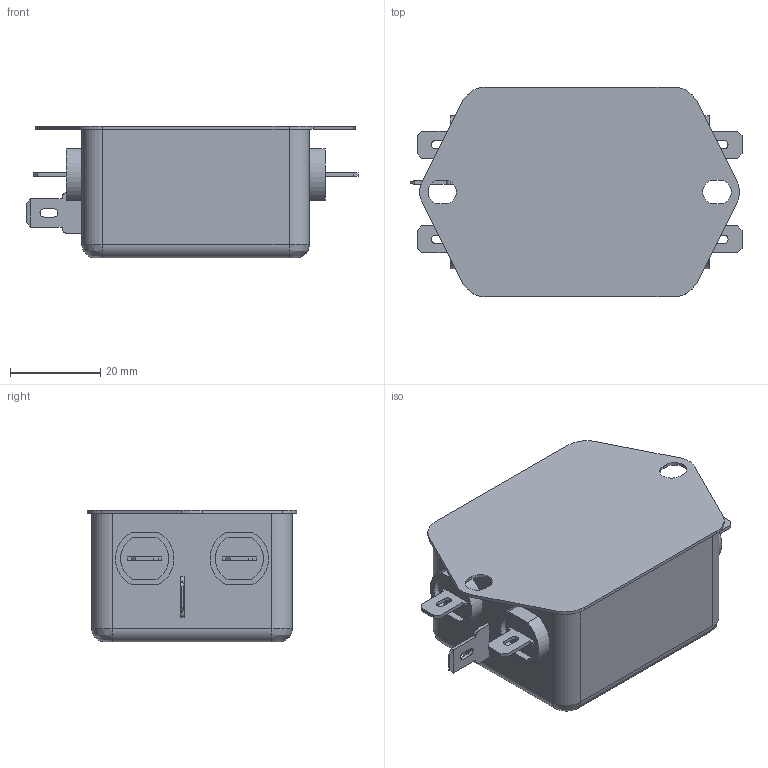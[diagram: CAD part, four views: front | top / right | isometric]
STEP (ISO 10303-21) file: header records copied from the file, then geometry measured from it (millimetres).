
FILE_DESCRIPTION((''),'2;1');
FILE_NAME('K:\Development\Product_FN\FN2020\FN2020-16-06 (291-690)\1_technical_file\3_technical_drawing\FN2020-16-06.stp','2012-08-30T15:16:21',('ice.li'),(''),'Autodesk Inventor 2010','Autodesk Inventor 2010','');
FILE_SCHEMA(('AUTOMOTIVE_DESIGN { 1 0 10303 214 1 1 1 1 }'));
Length unit declared in the file: millimetre
Products named in the file (1): 800610
Bounding box: 73.7 x 46.6 x 29.3 mm (x, y, z)
Volume: 66838 mm3; surface area: 12056.5 mm2
Topology: 1 solids, 1 shells, 158 faces, 414 edges, 272 vertices
Faces by surface type: plane 108, cylinder 46, bspline 4
Entity records: 5101 total; most frequent: CARTESIAN_POINT 1021, ORIENTED_EDGE 828, DIRECTION 820, EDGE_CURVE 414, VECTOR 318, LINE 318, VERTEX_POINT 272, AXIS2_PLACEMENT_3D 251
